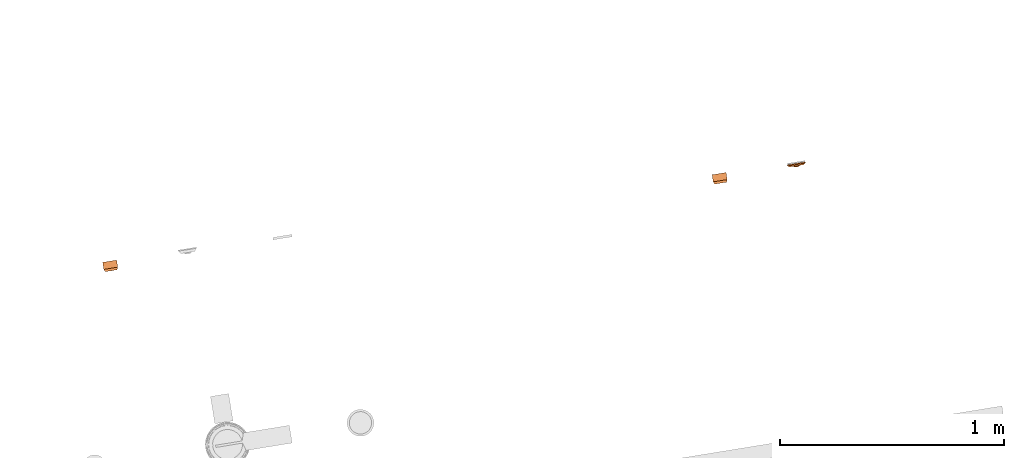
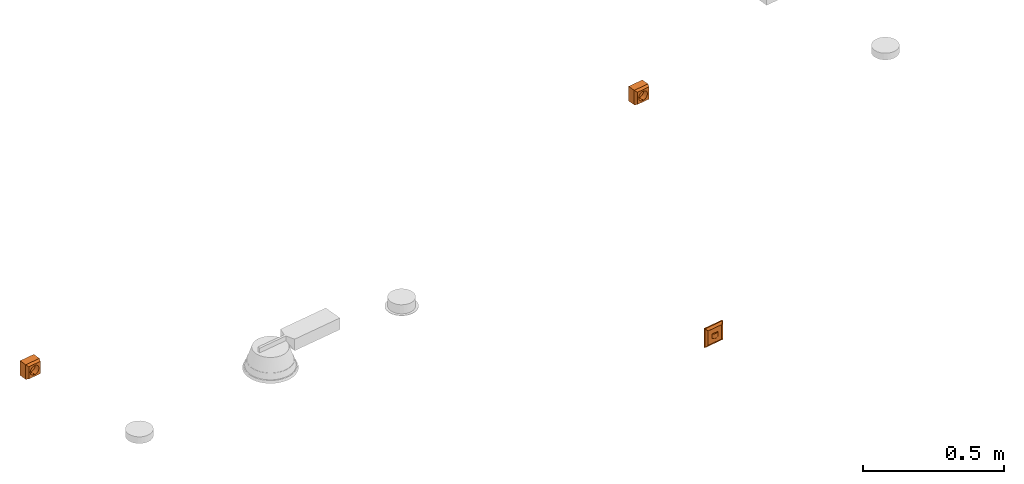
# One storey, part 17 of 20: 3 proxies.
"""IFC2X3 building model written with IfcOpenShell, lengths in millimetres."""

from ifc_helpers import new_model, entity, si_unit, converted_unit, derived_unit, direction, frame, frame_2d, origin, origin_with_axes, origin_2d_with_axis, place, context, subcontext, project, spatial, polyline, circle_curve, parameter, trimmed, segment, composite_curve, rectangle, outline, extrude, faceted_brep, source, transform, mapped, material, material_list, type_object, element, save


model = new_model("IFC2X3")

# Units and contexts
model_context = context("Model", 3, precision=0.01, world=origin(), true_north=direction((6.12323399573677e-17, 1.0)))
plan_context = context("Plan", 3, precision=1e-05, world=origin_with_axes())
body_context = subcontext(model_context, "Body", "Model", "MODEL_VIEW")
ifc_project = project(units=[converted_unit("PLANEANGLEUNIT", "DEGREE", entity("IfcPositiveLengthMeasure", 0.0174532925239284), si_unit("PLANEANGLEUNIT", "RADIAN"), dimensions=[0, 0, 0, 0, 0, 0, 0]), si_unit("AREAUNIT", "SQUARE_METRE"), si_unit("LENGTHUNIT", "METRE", prefix="MILLI"), si_unit("MASSUNIT", "GRAM", prefix="KILO"), si_unit("POWERUNIT", "WATT"), si_unit("PRESSUREUNIT", "PASCAL", prefix="KILO"), si_unit("FORCEUNIT", "NEWTON", prefix="KILO"), si_unit("ELECTRICVOLTAGEUNIT", "VOLT"), si_unit("ELECTRICCURRENTUNIT", "AMPERE"), si_unit("THERMODYNAMICTEMPERATUREUNIT", "DEGREE_CELSIUS"), si_unit("TIMEUNIT", "SECOND"), si_unit("VOLUMEUNIT", "CUBIC_METRE"), derived_unit("LINEARVELOCITYUNIT", [(si_unit("LENGTHUNIT", "METRE"), 1), (si_unit("TIMEUNIT", "SECOND"), -1)]), derived_unit("VOLUMETRICFLOWRATEUNIT", [(si_unit("VOLUMEUNIT", "CUBIC_METRE"), 1), (si_unit("TIMEUNIT", "SECOND"), -1)]), derived_unit("THERMALTRANSMITTANCEUNIT", [(si_unit("POWERUNIT", "WATT"), 1), (si_unit("THERMODYNAMICTEMPERATUREUNIT", "KELVIN"), -1), (si_unit("AREAUNIT", "SQUARE_METRE"), -1)]), derived_unit("SOUNDPRESSUREUNIT", [(si_unit("PRESSUREUNIT", "PASCAL"), 1)])], contexts=[model_context, plan_context])

# Site, building, storey
site_placement = place(None, frame((-0.219946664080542, 0.12226179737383, 0.0), z_axis=(0.0, 0.0, 1.0), x_axis=(-0.160236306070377, 0.987078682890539, 0.0)))
site = spatial("IfcSite", under=ifc_project, at=site_placement, Name="Default", CompositionType="ELEMENT")
building_placement = place(site_placement, origin_with_axes())
building = spatial("IfcBuilding", under=site, at=building_placement, CompositionType="ELEMENT")
storey_placement = place(building_placement, frame((0.0, 0.0, 50999.9999999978), z_axis=(0.0, 0.0, 1.0), x_axis=(1.0, 0.0, 0.0)))
storey = spatial("IfcBuildingStorey", under=building, at=storey_placement, Name="Nivå D", CompositionType="ELEMENT", Elevation=50999.9999999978)

# Proxies
ifc_material_1 = material(Name="Material3")
ifc_material_2 = material(Name="Material2")
ifc_material_3 = material(Name="Material1")
ifc_material_list = material_list([ifc_material_1, ifc_material_2, ifc_material_3])
building_element_proxy_type_1 = type_object("IfcBuildingElementProxyType", Name="Enkel stikk på vegg 2P+J PH:EARTHED-SOCKET-1", PredefinedType="NOTDEFINED", material=ifc_material_list)
shared_shape_1 = source(origin(), body_context, "Body", "Brep", [
    faceted_brep([(0.499999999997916, 44.4222972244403, 18.4260408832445), (0.499999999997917, 43.0, 19.0151756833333), (0.499999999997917, 21.5, 19.0151756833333), (0.499999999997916, 21.5, 18.2117489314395), (0.499999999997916, 42.9951958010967, 18.2117489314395), (0.499999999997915, 43.4790605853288, 18.1104701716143), (0.499999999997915, 43.8816889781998, 17.8236376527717), (0.499999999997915, 35.0114320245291, 17.8236376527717), (0.499999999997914, 35.0114320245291, 17.0037436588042), (0.499999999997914, 45.0114320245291, 17.0037436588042), (-0.500000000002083, 21.5, 19.0151756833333), (-0.500000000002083, 43.0, 19.0151756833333), (-0.500000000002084, 44.4222972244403, 18.4260408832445), (-0.500000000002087, 45.0114320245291, 17.0037436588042), (-0.500000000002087, 35.0114320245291, 17.0037436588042), (-0.500000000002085, 35.0114320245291, 17.8236376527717), (-0.500000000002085, 43.8816889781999, 17.8236376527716), (-0.500000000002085, 43.4790605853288, 18.1104701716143), (-0.500000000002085, 42.9951958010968, 18.2117489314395), (-0.500000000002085, 21.5, 18.2117489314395)], [[[0, 1, 2, 3, 4, 5, 6, 7, 8, 9]], [[10, 11, 12, 13, 14, 15, 16, 17, 18, 19]], [[2, 1, 11, 10]], [[3, 2, 10, 19]], [[4, 3, 19, 18]], [[18, 17, 5, 4]], [[16, 6, 5, 17]], [[7, 6, 16, 15]], [[8, 7, 15, 14]], [[9, 8, 14, 13]], [[9, 13, 12, 0]], [[12, 11, 1, 0]]]),
    faceted_brep([(0.499999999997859, 45.0114320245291, -17.0037436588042), (0.499999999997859, 35.0114320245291, -17.0037436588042), (0.499999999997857, 35.0114320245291, -17.8236376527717), (0.499999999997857, 43.8816889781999, -17.8236376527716), (0.499999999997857, 43.4790605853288, -18.1104701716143), (0.499999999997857, 42.9951958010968, -18.2117489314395), (0.499999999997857, 21.5, -18.2117489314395), (0.499999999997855, 21.5, -19.0151756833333), (0.499999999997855, 43.0, -19.0151756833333), (0.499999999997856, 44.4222972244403, -18.4260408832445), (-0.500000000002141, 35.0114320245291, -17.0037436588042), (-0.500000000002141, 45.0114320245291, -17.0037436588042), (-0.500000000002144, 44.4222972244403, -18.4260408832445), (-0.500000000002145, 43.0, -19.0151756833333), (-0.500000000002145, 21.5, -19.0151756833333), (-0.500000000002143, 21.5, -18.2117489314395), (-0.500000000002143, 42.9951958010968, -18.2117489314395), (-0.500000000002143, 43.4790605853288, -18.1104701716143), (-0.500000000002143, 43.8816889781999, -17.8236376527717), (-0.500000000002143, 35.0114320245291, -17.8236376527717)], [[[0, 1, 2, 3, 4, 5, 6, 7, 8, 9]], [[10, 11, 12, 13, 14, 15, 16, 17, 18, 19]], [[8, 13, 12, 9]], [[12, 11, 0, 9]], [[1, 0, 11, 10]], [[2, 1, 10, 19]], [[3, 2, 19, 18]], [[18, 17, 4, 3]], [[16, 5, 4, 17]], [[6, 5, 16, 15]], [[7, 6, 15, 14]], [[8, 7, 14, 13]]]),
    faceted_brep([(-10.0, 22.0, 2.5), (-8.75, 22.0, 1.25), (-7.5, 22.0, 0.0), (-8.74999999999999, 22.0, -1.25), (-10.0, 22.0, -2.5), (-11.25, 22.0, -1.25000000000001), (-12.5, 22.0, 0.0), (-11.25, 22.0, 1.25), (-8.59834208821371, 21.5, 1.09834208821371), (-10.0, 21.5, 2.5), (-11.25, 21.5, 1.25), (-12.5, 21.5, 0.0), (-11.4016579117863, 21.5, -1.09834208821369), (-10.0, 21.5, -2.5), (-8.74999999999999, 21.5, -1.25), (-7.5, 21.5, 0.0)], [[[0, 1, 2, 3, 4, 5, 6, 7]], [[8, 9, 10, 11, 12, 13, 14, 15]], [[15, 14, 13, 4, 3, 2]], [[13, 12, 11, 6, 5, 4]], [[11, 10, 9, 0, 7, 6]], [[9, 8, 15, 2, 1, 0]]]),
    faceted_brep([(10.0, 22.0, 2.5), (11.25, 22.0, 1.25), (12.5, 22.0, 0.0), (11.25, 22.0, -1.25), (10.0, 22.0, -2.5), (8.75000000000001, 22.0, -1.25000000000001), (7.5, 22.0, 0.0), (8.75, 22.0, 1.25), (11.4016579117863, 21.5, 1.09834208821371), (10.0, 21.5, 2.5), (8.75, 21.5, 1.25), (7.5, 21.5, 0.0), (8.59834208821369, 21.5, -1.09834208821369), (10.0, 21.5, -2.5), (11.25, 21.5, -1.25), (12.5, 21.5, 0.0)], [[[0, 1, 2, 3, 4, 5, 6, 7]], [[8, 9, 10, 11, 12, 13, 14, 15]], [[15, 14, 13, 4, 3, 2]], [[13, 12, 11, 6, 5, 4]], [[11, 10, 9, 0, 7, 6]], [[9, 8, 15, 2, 1, 0]]]),
    faceted_brep([(-26.4999999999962, 43.0, -26.4999999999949), (-10.0, 43.0, -17.3205080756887), (-5.1763809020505, 43.0, -19.3185165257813), (-14.142135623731, 43.0, -14.1421356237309), (0.0, 43.0, -20.0), (-17.3205080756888, 43.0, -10.0), (-19.3185165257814, 43.0, -5.17638090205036), (-20.0, 43.0, 0.0), (-26.4999999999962, 43.0, 26.500000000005), (26.5000000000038, 43.0, -26.4999999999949), (-19.3185165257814, 43.0, 5.17638090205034), (-17.3205080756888, 43.0, 10.0), (-14.142135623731, 43.0, 14.1421356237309), (-10.0, 43.0, 17.3205080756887), (-5.17638090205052, 43.0, 19.3185165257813), (0.0, 43.0, 20.0), (26.5000000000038, 43.0, 26.500000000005), (5.1763809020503, 43.0, 19.3185165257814), (10.0, 43.0, 17.3205080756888), (14.1421356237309, 43.0, 14.142135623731), (17.3205080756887, 43.0, 10.0), (19.3185165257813, 43.0, 5.17638090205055), (20.0, 43.0, 0.0), (5.17638090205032, 43.0, -19.3185165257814), (10.0, 43.0, -17.3205080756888), (14.1421356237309, 43.0, -14.142135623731), (17.3205080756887, 43.0, -10.0), (19.3185165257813, 43.0, -5.17638090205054), (31.5000000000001, 32.0, -31.5000000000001), (10.0, 32.0, -17.3205080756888), (5.17638090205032, 32.0, -19.3185165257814), (14.1421356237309, 32.0, -14.142135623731), (0.0, 32.0, -20.0), (17.3205080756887, 32.0, -10.0), (19.3185165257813, 32.0, -5.17638090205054), (20.0, 32.0, 0.0), (31.5000000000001, 32.0, 31.5000000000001), (-31.5, 32.0, -31.5000000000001), (19.3185165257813, 32.0, 5.17638090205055), (17.3205080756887, 32.0, 10.0), (14.1421356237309, 32.0, 14.142135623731), (10.0, 32.0, 17.3205080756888), (5.1763809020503, 32.0, 19.3185165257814), (0.0, 32.0, 20.0), (-31.5, 32.0, 31.5000000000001), (-5.17638090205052, 32.0, 19.3185165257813), (-10.0, 32.0, 17.3205080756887), (-14.142135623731, 32.0, 14.1421356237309), (-17.3205080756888, 32.0, 10.0), (-19.3185165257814, 32.0, 5.17638090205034), (-20.0, 32.0, 0.0), (-5.1763809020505, 32.0, -19.3185165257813), (-10.0, 32.0, -17.3205080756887), (-14.142135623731, 32.0, -14.1421356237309), (-17.3205080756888, 32.0, -10.0), (-19.3185165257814, 32.0, -5.17638090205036)], [[[0, 1, 2]], [[1, 0, 3]], [[0, 2, 4]], [[5, 3, 0]], [[6, 5, 0]], [[7, 6, 0]], [[0, 8, 7]], [[4, 9, 0]], [[10, 7, 8]], [[11, 10, 8]], [[12, 11, 8]], [[8, 13, 12]], [[13, 8, 14]], [[15, 14, 8]], [[8, 16, 15]], [[17, 15, 16]], [[18, 17, 16]], [[16, 19, 18]], [[19, 16, 20]], [[21, 20, 16]], [[22, 21, 16]], [[22, 16, 9]], [[9, 4, 23]], [[9, 23, 24]], [[24, 25, 9]], [[25, 26, 9]], [[26, 27, 9]], [[9, 27, 22]], [[28, 29, 30]], [[29, 28, 31]], [[28, 30, 32]], [[33, 31, 28]], [[34, 33, 28]], [[35, 34, 28]], [[28, 36, 35]], [[32, 37, 28]], [[38, 35, 36]], [[39, 38, 36]], [[40, 39, 36]], [[36, 41, 40]], [[41, 36, 42]], [[43, 42, 36]], [[36, 44, 43]], [[45, 43, 44]], [[46, 45, 44]], [[44, 47, 46]], [[47, 44, 48]], [[49, 48, 44]], [[50, 49, 44]], [[50, 44, 37]], [[37, 32, 51]], [[37, 51, 52]], [[52, 53, 37]], [[53, 54, 37]], [[54, 55, 37]], [[37, 55, 50]], [[0, 37, 44, 8]], [[8, 44, 36, 16]], [[16, 36, 28, 9]], [[9, 28, 37, 0]], [[7, 50, 55, 6]], [[6, 55, 54, 5]], [[1, 3, 53, 52]], [[53, 3, 5, 54]], [[2, 1, 52, 51]], [[2, 51, 32, 4]], [[4, 32, 30, 23]], [[23, 30, 29, 24]], [[26, 25, 31, 33]], [[31, 25, 24, 29]], [[27, 26, 33, 34]], [[27, 34, 35, 22]], [[22, 35, 38, 21]], [[21, 38, 39, 20]], [[18, 19, 40, 41]], [[40, 19, 20, 39]], [[17, 18, 41, 42]], [[17, 42, 43, 15]], [[15, 43, 45, 14]], [[14, 45, 46, 13]], [[11, 12, 47, 48]], [[47, 12, 13, 46]], [[10, 11, 48, 49]], [[10, 49, 50, 7]]]),
    faceted_brep([(-17.3205080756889, 21.5, -10.0), (-17.3205080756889, 32.0, -10.0), (-19.3185165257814, 32.0, -5.17638090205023), (-19.3185165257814, 21.5, -5.17638090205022), (-20.0, 32.0, 0.0), (-20.0, 21.5, 0.0), (-5.17638090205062, 21.5, -19.3185165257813), (-5.17638090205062, 32.0, -19.3185165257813), (-10.0, 32.0, -17.3205080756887), (-10.0, 21.5, -17.3205080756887), (-14.1421356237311, 32.0, -14.1421356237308), (-14.1421356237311, 21.5, -14.1421356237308), (0.0, 21.5, -20.0), (0.0, 32.0, -20.0), (14.1421356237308, 21.5, -14.1421356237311), (14.1421356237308, 32.0, -14.1421356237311), (10.0, 32.0, -17.3205080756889), (10.0, 21.5, -17.3205080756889), (5.1763809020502, 32.0, -19.3185165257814), (5.1763809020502, 21.5, -19.3185165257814), (20.0, 21.5, 0.0), (20.0, 32.0, 0.0), (19.3185165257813, 32.0, -5.17638090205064), (19.3185165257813, 21.5, -5.17638090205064), (17.3205080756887, 32.0, -10.0), (17.3205080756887, 21.5, -10.0), (17.3205080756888, 21.5, 10.0), (17.3205080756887, 32.0, 10.0), (19.3185165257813, 32.0, 5.17638090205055), (19.3185165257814, 21.5, 5.17638090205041), (5.17638090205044, 21.5, 19.3185165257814), (5.1763809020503, 32.0, 19.3185165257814), (10.0, 32.0, 17.3205080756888), (10.0, 21.5, 17.3205080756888), (14.1421356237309, 32.0, 14.142135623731), (14.142135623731, 21.5, 14.1421356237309), (0.0, 21.5, 20.0), (0.0, 32.0, 20.0), (-14.1421356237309, 21.5, 14.142135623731), (-14.142135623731, 32.0, 14.1421356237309), (-10.0, 32.0, 17.3205080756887), (-10.0, 21.5, 17.3205080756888), (-5.17638090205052, 32.0, 19.3185165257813), (-5.17638090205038, 21.5, 19.3185165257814), (-19.3185165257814, 32.0, 5.17638090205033), (-19.3185165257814, 21.5, 5.17638090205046), (-17.3205080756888, 32.0, 10.0), (-17.3205080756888, 21.5, 10.0), (-31.4999999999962, 0.0, 31.500000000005), (-31.4999999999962, 0.0, -31.4999999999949), (31.5000000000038, 0.0, -31.4999999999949), (31.5000000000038, 0.0, 31.500000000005), (31.5000000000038, 32.0, -31.4999999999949), (-31.4999999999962, 32.0, -31.4999999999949), (31.5000000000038, 32.0, 31.500000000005), (-31.4999999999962, 32.0, 31.500000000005)], [[[0, 1, 2, 3]], [[3, 2, 4, 5]], [[6, 7, 8, 9]], [[9, 8, 10, 11]], [[11, 10, 1, 0]], [[7, 6, 12, 13]], [[14, 15, 16, 17]], [[17, 16, 18, 19]], [[20, 21, 22, 23]], [[23, 22, 24, 25]], [[25, 24, 15, 14]], [[13, 12, 19, 18]], [[26, 27, 28, 29]], [[29, 28, 21, 20]], [[30, 31, 32, 33]], [[33, 32, 34, 35]], [[35, 34, 27, 26]], [[31, 30, 36, 37]], [[38, 39, 40, 41]], [[41, 40, 42, 43]], [[5, 4, 44, 45]], [[45, 44, 46, 47]], [[47, 46, 39, 38]], [[37, 36, 43, 42]], [[48, 49, 50, 51]], [[52, 24, 22]], [[24, 52, 15]], [[52, 22, 21]], [[16, 15, 52]], [[18, 16, 52]], [[13, 18, 52]], [[52, 53, 13]], [[21, 54, 52]], [[7, 13, 53]], [[8, 7, 53]], [[10, 8, 53]], [[53, 1, 10]], [[1, 53, 2]], [[4, 2, 53]], [[53, 55, 4]], [[44, 4, 55]], [[46, 44, 55]], [[55, 39, 46]], [[39, 55, 40]], [[42, 40, 55]], [[37, 42, 55]], [[37, 55, 54]], [[54, 21, 28]], [[54, 28, 27]], [[27, 34, 54]], [[34, 32, 54]], [[32, 31, 54]], [[54, 31, 37]], [[50, 49, 53, 52]], [[51, 50, 52, 54]], [[48, 51, 54, 55]], [[49, 48, 55, 53]], [[14, 17, 19, 12, 6, 9, 11, 0, 3, 5, 45, 47, 38, 41, 43, 36, 30, 33, 35, 26, 29, 20, 23, 25]]]),
])
for number, where, z_axis, x_axis in (
    (1, (779792.619644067, -590019.638231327, 2300.0), (0.0, 0.0, 1.0), (0.0, 1.0, 0.0)),
    (2, (779742.619644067, -592762.48173883, 2300.0), (0.0, 0.0, 1.0), (0.0, 1.0, 0.0)),
):
    element("IfcBuildingElementProxy", number, at=place(storey_placement, frame(where, z_axis=z_axis, x_axis=x_axis)), inside=storey, type_object=building_element_proxy_type_1, material=ifc_material_list, Name="Enkel stikk på vegg 2P+J PH:EARTHED-SOCKET-1", ObjectType="Enkel stikk på vegg 2P+J PH:EARTHED-SOCKET-1", context=body_context, shape_type="MappedRepresentation", body=[
        mapped(shared_shape_1, transform((0.0, 0.0, 0.0), scale=1.0)),
    ])
ifc_material_4 = material(Name="<Unnamed>")
building_element_proxy_type_2 = type_object("IfcBuildingElementProxyType", Name="Move-detector-2-0002:MOVE-DETECTOR-2", PredefinedType="NOTDEFINED", material=ifc_material_4)
shared_shape_2 = source(origin(), body_context, "Body", "SweptSolid", [
    extrude(outline(polyline([(-31.1151497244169, -27.3285099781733), (-15.7528582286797, -27.3285099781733), (24.6057041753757, 19.7372572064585), (22.2623037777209, 34.9197627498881), (-31.1151497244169, -27.3285099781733)])), frame((35.9485504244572, 7.91425070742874, 0.0), z_axis=(0.514495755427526, 0.857492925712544, 0.0), x_axis=(-0.650944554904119, 0.390566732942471, 0.650944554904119)), (0.0, 0.0, 1.0), 0.200000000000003),
    extrude(outline(polyline([(-41.0, -5.8309518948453), (41.0, -5.8309518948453), (31.0, 5.8309518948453), (-31.0, 5.8309518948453), (-41.0, -5.8309518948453)])), frame((-35.9485504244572, 7.91425070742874, 0.0), z_axis=(-0.514495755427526, 0.857492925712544, 0.0), x_axis=(0.0, 0.0, 1.0)), (0.0, 0.0, 1.0), 0.2),
    extrude(outline(polyline([(15.7528582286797, -27.3285099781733), (31.1151497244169, -27.3285099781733), (-22.2623037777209, 34.9197627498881), (-24.6057041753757, 19.7372572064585), (15.7528582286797, -27.3285099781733)])), frame((0.0, 7.91425070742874, -35.9485504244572), z_axis=(0.0, 0.857492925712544, -0.514495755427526), x_axis=(0.650944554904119, -0.390566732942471, -0.65094455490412)), (0.0, 0.0, 1.0), 0.200000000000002),
    extrude(outline(polyline([(-31.0, -5.8309518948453), (31.0, -5.83095189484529), (41.0, 5.83095189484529), (-41.0, 5.8309518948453), (-31.0, -5.8309518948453)])), frame((0.0, 7.91425070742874, 35.9485504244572), z_axis=(0.0, 0.857492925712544, 0.514495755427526), x_axis=(-1.0, 0.0, 0.0)), (0.0, 0.0, 1.0), 0.199999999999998),
    extrude(rectangle(XDim=0.200000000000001, YDim=61.9999999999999, at=origin_2d_with_axis()), frame((0.0, 11.0, -31.0), z_axis=(0.0, 0.0, 1.0), x_axis=(0.0, 1.0, 0.0)), (0.0, 0.0, 1.0), 61.9999999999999),
    extrude(outline(composite_curve([segment(trimmed(circle_curve(frame_2d((-9.79999999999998, 9.79999999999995), x_axis=(1.0, 0.0)), 20.0), [parameter(270.0)], [parameter(0.0)], True, "PARAMETER"), True, "CONTINUOUS"), segment(polyline([(10.2, 9.79999999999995), (9.39999999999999, 9.79999999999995)]), True, "CONTINUOUS"), segment(trimmed(circle_curve(frame_2d((-9.79999999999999, 9.79999999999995), x_axis=(0.0, -1.0)), 19.2), [parameter(0.0)], [parameter(90.0000000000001)], True, "PARAMETER"), False, "CONTINUOUS"), segment(polyline([(-9.79999999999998, -9.40000000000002), (-9.79999999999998, -10.2)]), True, "CONTINUOUS")], self_intersect=False)), frame((0.0, 10.8592929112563, -10.0), z_axis=(0.0, 0.0, 1.0), x_axis=(-0.707106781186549, 0.707106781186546, 0.0)), (0.0, 0.0, 1.0), 20.0),
    extrude(outline(composite_curve([segment(trimmed(circle_curve(frame_2d((-10.0, 10.0), x_axis=(1.0, 0.0)), 20.0), [parameter(270.0)], [parameter(0.0)], True, "PARAMETER"), True, "CONTINUOUS"), segment(polyline([(10.0, 10.0), (-10.0, -10.0)]), True, "CONTINUOUS")], self_intersect=False)), frame((0.0, 11.1421356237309, -10.1), z_axis=(0.0, 0.0, 1.0), x_axis=(-0.707106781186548, 0.707106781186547, 0.0)), (0.0, 0.0, 1.0), 0.199999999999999),
    extrude(outline(composite_curve([segment(trimmed(circle_curve(frame_2d((-10.0, 10.0), x_axis=(1.0, 0.0)), 20.0), [parameter(270.0)], [parameter(0.0)], True, "PARAMETER"), True, "CONTINUOUS"), segment(polyline([(10.0, 10.0), (-10.0, -10.0)]), True, "CONTINUOUS")], self_intersect=False)), frame((0.0, 11.1421356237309, 9.89999999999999), z_axis=(0.0, 0.0, 1.0), x_axis=(-0.707106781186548, 0.707106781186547, 0.0)), (0.0, 0.0, 1.0), 0.199999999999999),
    extrude(rectangle(XDim=81.9999999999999, YDim=4.99999999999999, at=origin_2d_with_axis()), frame((0.0, 2.5, -41.0)), (0.0, 0.0, 1.0), 81.9999999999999),
])
proxy_placement = place(storey_placement, frame((779732.619644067, -593109.075561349, 1100.0), z_axis=(0.0, 0.0, 1.0), x_axis=(0.0, 1.0, 0.0)))
element("IfcBuildingElementProxy", 3, at=proxy_placement, inside=storey, type_object=building_element_proxy_type_2, material=ifc_material_4, Name="Move-detector-2-0002:MOVE-DETECTOR-2", ObjectType="Move-detector-2-0002:MOVE-DETECTOR-2", context=body_context, shape_type="MappedRepresentation", body=[
    mapped(shared_shape_2, transform((0.0, 0.0, 0.0), scale=1.0)),
])

save(model, "model.ifc")
